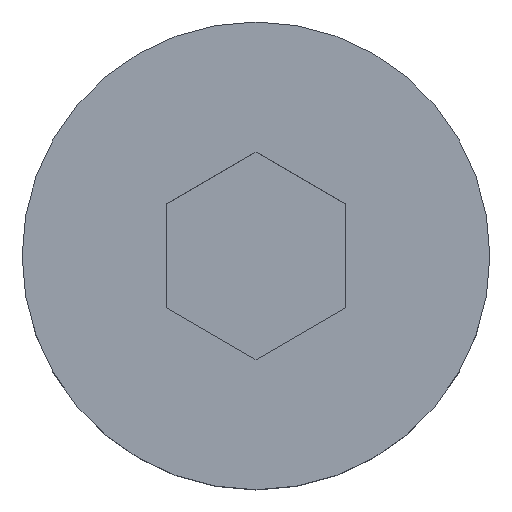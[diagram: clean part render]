
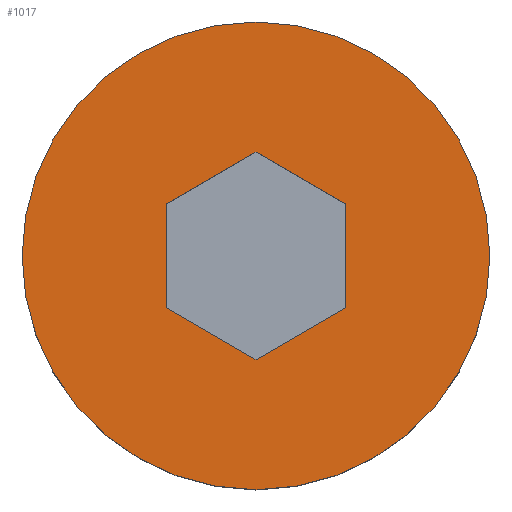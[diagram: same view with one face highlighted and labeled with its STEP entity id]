
A CAD part, top view. The second image highlights one B-rep face of the part: STEP entity #1017.
In plain terms, the highlighted planar face has unit normal (0, 0, 1).
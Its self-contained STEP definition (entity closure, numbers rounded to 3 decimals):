
#26 = CARTESIAN_POINT ( 'NONE',  ( -5., 2.887, 8. ) ) ;
#27 = CIRCLE ( 'NONE', #1042, 13. ) ;
#105 = FACE_BOUND ( 'NONE', #452, .T. ) ;
#117 = FACE_OUTER_BOUND ( 'NONE', #131, .T. ) ;
#121 = CARTESIAN_POINT ( 'NONE',  ( 5., -2.887, 8. ) ) ;
#131 = EDGE_LOOP ( 'NONE', ( #937, #912 ) ) ;
#178 = VECTOR ( 'NONE', #725, 1000. ) ;
#193 = VERTEX_POINT ( 'NONE', #349 ) ;
#195 = VECTOR ( 'NONE', #552, 1000. ) ;
#233 = VERTEX_POINT ( 'NONE', #334 ) ;
#309 = CARTESIAN_POINT ( 'NONE',  ( 7.25, -9.959, 8. ) ) ;
#334 = CARTESIAN_POINT ( 'NONE',  ( -13., 0., 8. ) ) ;
#341 = VERTEX_POINT ( 'NONE', #121 ) ;
#347 = ORIENTED_EDGE ( 'NONE', *, *, #402, .F. ) ;
#349 = CARTESIAN_POINT ( 'NONE',  ( 5., 2.887, 8. ) ) ;
#350 = VERTEX_POINT ( 'NONE', #26 ) ;
#385 = EDGE_CURVE ( 'NONE', #794, #506, #543, .T. ) ;
#402 = EDGE_CURVE ( 'NONE', #350, #794, #485, .T. ) ;
#408 = DIRECTION ( 'NONE',  ( 0., 0., 1. ) ) ;
#452 = EDGE_LOOP ( 'NONE', ( #953, #1190, #1188, #846, #1139, #347 ) ) ;
#468 = VECTOR ( 'NONE', #1191, 1000. ) ;
#485 = LINE ( 'NONE', #1174, #468 ) ;
#491 = VECTOR ( 'NONE', #897, 1000. ) ;
#506 = VERTEX_POINT ( 'NONE', #746 ) ;
#513 = VERTEX_POINT ( 'NONE', #734 ) ;
#538 = CARTESIAN_POINT ( 'NONE',  ( 0., 0., 8. ) ) ;
#543 = LINE ( 'NONE', #309, #195 ) ;
#552 = DIRECTION ( 'NONE',  ( 0.866, -0.5, 0. ) ) ;
#559 = CARTESIAN_POINT ( 'NONE',  ( 0., 5.774, 8. ) ) ;
#573 = VERTEX_POINT ( 'NONE', #559 ) ;
#602 = AXIS2_PLACEMENT_3D ( 'NONE', #892, #882, #877 ) ;
#629 = DIRECTION ( 'NONE',  ( 1., 0., 0. ) ) ;
#705 = EDGE_CURVE ( 'NONE', #513, #233, #27, .T. ) ;
#725 = DIRECTION ( 'NONE',  ( 0., 1., 0. ) ) ;
#734 = CARTESIAN_POINT ( 'NONE',  ( 13., 0., 8. ) ) ;
#746 = CARTESIAN_POINT ( 'NONE',  ( 0., -5.774, 8. ) ) ;
#774 = EDGE_CURVE ( 'NONE', #233, #513, #1053, .T. ) ;
#783 = EDGE_CURVE ( 'NONE', #573, #350, #1084, .T. ) ;
#791 = EDGE_CURVE ( 'NONE', #193, #573, #1062, .T. ) ;
#794 = VERTEX_POINT ( 'NONE', #1021 ) ;
#799 = EDGE_CURVE ( 'NONE', #506, #341, #1043, .T. ) ;
#812 = EDGE_CURVE ( 'NONE', #341, #193, #970, .T. ) ;
#846 = ORIENTED_EDGE ( 'NONE', *, *, #799, .F. ) ;
#877 = DIRECTION ( 'NONE',  ( -1., 0., 0. ) ) ;
#882 = DIRECTION ( 'NONE',  ( 0., 0., -1. ) ) ;
#892 = CARTESIAN_POINT ( 'NONE',  ( 13., 0., 8. ) ) ;
#893 = CARTESIAN_POINT ( 'NONE',  ( 5., 0., 8. ) ) ;
#897 = DIRECTION ( 'NONE',  ( 0.866, 0.5, 0. ) ) ;
#912 = ORIENTED_EDGE ( 'NONE', *, *, #774, .T. ) ;
#916 = CARTESIAN_POINT ( 'NONE',  ( 12.25, 1.299, 8. ) ) ;
#921 = DIRECTION ( 'NONE',  ( -0.866, 0.5, 0. ) ) ;
#931 = CARTESIAN_POINT ( 'NONE',  ( 12.25, -1.299, 8. ) ) ;
#937 = ORIENTED_EDGE ( 'NONE', *, *, #705, .T. ) ;
#953 = ORIENTED_EDGE ( 'NONE', *, *, #783, .F. ) ;
#969 = DIRECTION ( 'NONE',  ( 1., 0., 0. ) ) ;
#970 = LINE ( 'NONE', #893, #178 ) ;
#973 = PLANE ( 'NONE',  #602 ) ;
#981 = AXIS2_PLACEMENT_3D ( 'NONE', #988, #985, #969 ) ;
#985 = DIRECTION ( 'NONE',  ( 0., 0., 1. ) ) ;
#988 = CARTESIAN_POINT ( 'NONE',  ( 0., 0., 8. ) ) ;
#997 = DIRECTION ( 'NONE',  ( -0.866, -0.5, 0. ) ) ;
#1002 = CARTESIAN_POINT ( 'NONE',  ( 7.25, 9.959, 8. ) ) ;
#1017 = ADVANCED_FACE ( 'NONE', ( #117, #105 ), #973, .F. ) ;
#1021 = CARTESIAN_POINT ( 'NONE',  ( -5., -2.887, 8. ) ) ;
#1041 = VECTOR ( 'NONE', #921, 1000. ) ;
#1042 = AXIS2_PLACEMENT_3D ( 'NONE', #538, #408, #629 ) ;
#1043 = LINE ( 'NONE', #916, #491 ) ;
#1048 = VECTOR ( 'NONE', #997, 1000. ) ;
#1053 = CIRCLE ( 'NONE', #981, 13. ) ;
#1062 = LINE ( 'NONE', #931, #1041 ) ;
#1084 = LINE ( 'NONE', #1002, #1048 ) ;
#1139 = ORIENTED_EDGE ( 'NONE', *, *, #385, .F. ) ;
#1174 = CARTESIAN_POINT ( 'NONE',  ( -5., 0., 8. ) ) ;
#1188 = ORIENTED_EDGE ( 'NONE', *, *, #812, .F. ) ;
#1190 = ORIENTED_EDGE ( 'NONE', *, *, #791, .F. ) ;
#1191 = DIRECTION ( 'NONE',  ( 0., -1., 0. ) ) ;
